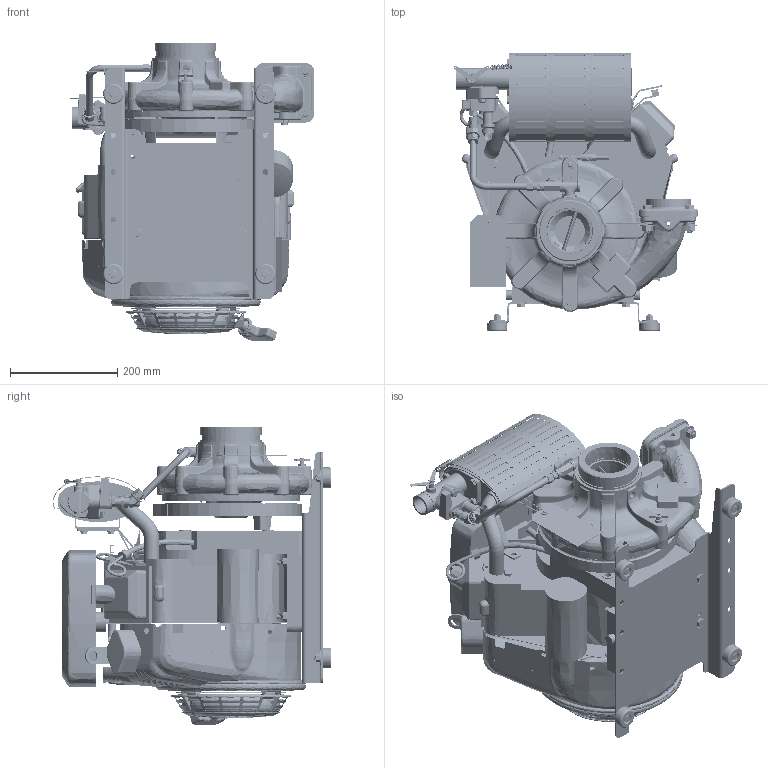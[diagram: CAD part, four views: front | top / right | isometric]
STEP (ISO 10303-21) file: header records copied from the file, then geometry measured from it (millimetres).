
FILE_DESCRIPTION (( 'STEP AP214' ), '1' );
FILE_NAME ('HPX200-B23 PUMP ASSEMBLY.STEP', '2017-10-27T13:20:48', ( '' ), ( '' ), 'SwSTEP 2.0', 'SolidWorks 2016', '' );
FILE_SCHEMA (( 'AUTOMOTIVE_DESIGN' ));
Length unit declared in the file: millimetre
Products named in the file (1): HPX200-B23 PUMP ASSEMBLY
Bounding box: 456.7 x 520.14 x 557.68 mm (x, y, z)
Surface area: 2744986.7 mm2 (no closed solid volume)
Topology: 0 solids, 517 shells, 4906 faces, 22816 edges, 17870 vertices
Faces by surface type: bspline 2002, plane 1423, cylinder 829, cone 341, torus 283, sphere 28
Entity records: 494202 total; most frequent: CARTESIAN_POINT 289510, ORIENTED_EDGE 32124, EDGE_CURVE 22736, DIRECTION 20971, VERTEX_POINT 17869, B_SPLINE_CURVE_WITH_KNOTS 9867, VECTOR 7627, LINE 7627
